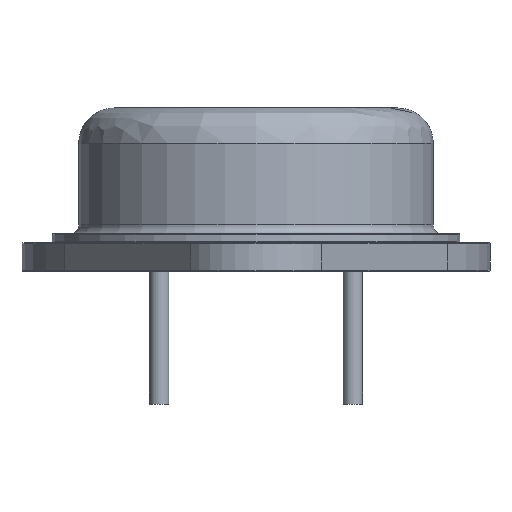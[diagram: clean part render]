
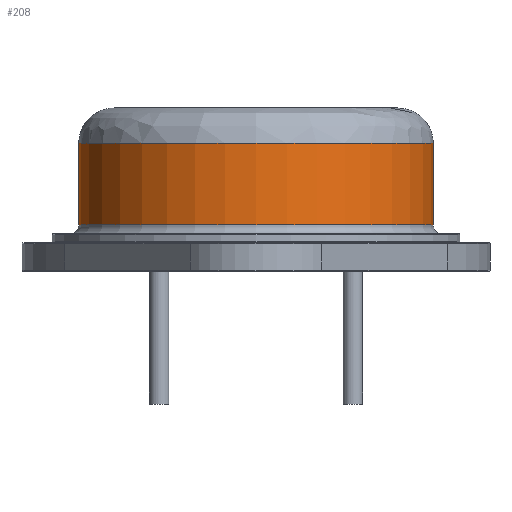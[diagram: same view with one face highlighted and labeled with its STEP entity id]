
A CAD part, front view. The second image highlights one B-rep face of the part: STEP entity #208.
In plain terms, the highlighted cylindrical face has radius 10 mm (diameter 20 mm), a partial arc.
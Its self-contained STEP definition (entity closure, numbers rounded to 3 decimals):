
#12 = AXIS2_PLACEMENT_3D ( 'NONE', #5077, #4616, #2381 ) ;
#21 = AXIS2_PLACEMENT_3D ( 'NONE', #1732, #4897, #2192 ) ;
#102 = DIRECTION ( 'NONE',  ( 0., 0., -1. ) ) ;
#192 = EDGE_CURVE ( 'NONE', #1818, #5558, #1987, .T. ) ;
#208 = ADVANCED_FACE ( 'NONE', ( #748 ), #2631, .T. ) ;
#244 = CARTESIAN_POINT ( 'NONE',  ( 10., 0., 1. ) ) ;
#570 = ORIENTED_EDGE ( 'NONE', *, *, #192, .T. ) ;
#669 = CIRCLE ( 'NONE', #21, 10. ) ;
#748 = FACE_OUTER_BOUND ( 'NONE', #1060, .T. ) ;
#1060 = EDGE_LOOP ( 'NONE', ( #4898, #1585, #5501, #570 ) ) ;
#1271 = EDGE_CURVE ( 'NONE', #5353, #3289, #669, .T. ) ;
#1496 = EDGE_CURVE ( 'NONE', #3289, #1818, #5839, .T. ) ;
#1585 = ORIENTED_EDGE ( 'NONE', *, *, #1271, .T. ) ;
#1732 = CARTESIAN_POINT ( 'NONE',  ( 0., 0., 1. ) ) ;
#1818 = VERTEX_POINT ( 'NONE', #3237 ) ;
#1987 = CIRCLE ( 'NONE', #2856, 10. ) ;
#2192 = DIRECTION ( 'NONE',  ( 1., 0., 0. ) ) ;
#2365 = CARTESIAN_POINT ( 'NONE',  ( -10., 0., 1. ) ) ;
#2381 = DIRECTION ( 'NONE',  ( 1., 0., 0. ) ) ;
#2399 = VECTOR ( 'NONE', #5611, 1000. ) ;
#2467 = CARTESIAN_POINT ( 'NONE',  ( 10., 0., 0.5 ) ) ;
#2631 = CYLINDRICAL_SURFACE ( 'NONE', #12, 10. ) ;
#2738 = VECTOR ( 'NONE', #3422, 1000. ) ;
#2815 = CARTESIAN_POINT ( 'NONE',  ( 0., 0., 5.6 ) ) ;
#2856 = AXIS2_PLACEMENT_3D ( 'NONE', #2815, #102, #3278 ) ;
#3237 = CARTESIAN_POINT ( 'NONE',  ( 10., 0., 5.6 ) ) ;
#3278 = DIRECTION ( 'NONE',  ( 1., 0., 0. ) ) ;
#3289 = VERTEX_POINT ( 'NONE', #244 ) ;
#3422 = DIRECTION ( 'NONE',  ( 0., 0., 1. ) ) ;
#3767 = CARTESIAN_POINT ( 'NONE',  ( -10., 0., 5.6 ) ) ;
#4616 = DIRECTION ( 'NONE',  ( 0., 0., 1. ) ) ;
#4761 = CARTESIAN_POINT ( 'NONE',  ( -10., 0., 0.5 ) ) ;
#4897 = DIRECTION ( 'NONE',  ( 0., 0., 1. ) ) ;
#4898 = ORIENTED_EDGE ( 'NONE', *, *, #5091, .F. ) ;
#5077 = CARTESIAN_POINT ( 'NONE',  ( 0., 0., 0.5 ) ) ;
#5091 = EDGE_CURVE ( 'NONE', #5353, #5558, #5271, .T. ) ;
#5271 = LINE ( 'NONE', #4761, #2738 ) ;
#5353 = VERTEX_POINT ( 'NONE', #2365 ) ;
#5501 = ORIENTED_EDGE ( 'NONE', *, *, #1496, .T. ) ;
#5558 = VERTEX_POINT ( 'NONE', #3767 ) ;
#5611 = DIRECTION ( 'NONE',  ( 0., 0., 1. ) ) ;
#5839 = LINE ( 'NONE', #2467, #2399 ) ;
